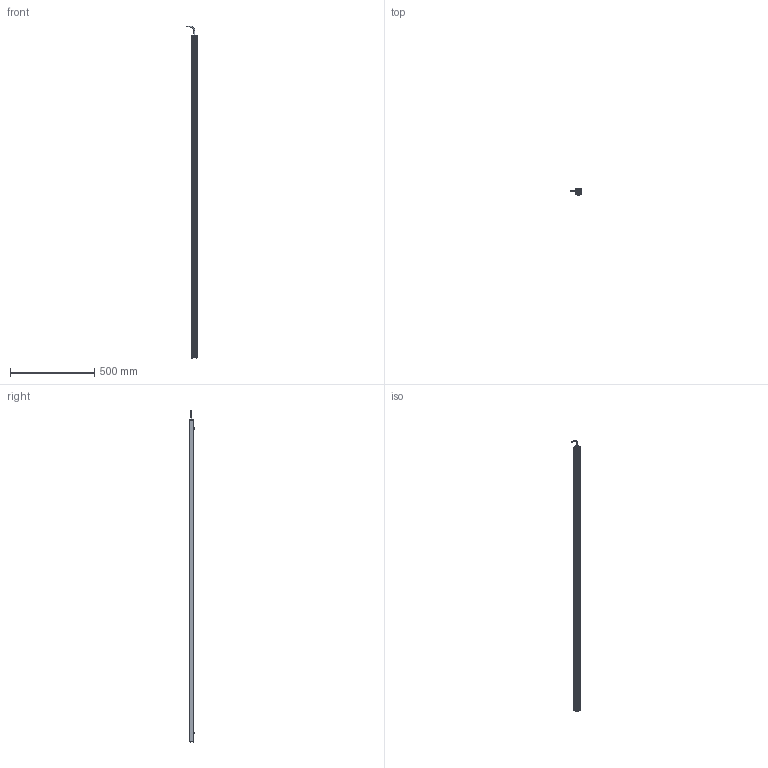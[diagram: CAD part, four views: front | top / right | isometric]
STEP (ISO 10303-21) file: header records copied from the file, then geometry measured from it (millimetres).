
FILE_DESCRIPTION (( 'STEP AP214' ), '1' );
FILE_NAME ('AL150XXXX_AL150438.stp', '2021-04-29T15:42:04', ( '' ), ( '' ), 'SwSTEP 2.0', 'SolidWorks 2018', '' );
FILE_SCHEMA (( 'AUTOMOTIVE_DESIGN' ));
Length unit declared in the file: inch
Products named in the file (12): Part2^AL150XXXX; 150-03-006-XXXX_150-03-006-438; HN-M6_90592A016; 1157 (no strap); CHM6x8_91460A312; 116-02-006; 150-01-005-XXX_150-01-005-438; 093145_93701A253; AL150XXXX_AL150438; 116-02-007; Part1^AL150XXXX; 092408_TRUNCATED
Assembly tree (18 placements, depth 2):
  Part2^AL150XXXX
  AL150XXXX_AL150438
    150-01-005-XXX_150-01-005-438
    116-02-006
    093145_93701A253  x8
    HN-M6_90592A016  x2
    CHM6x8_91460A312  x2
    150-03-006-XXXX_150-03-006-438
    116-02-007
    1157 (no strap)
    092408_TRUNCATED
  Part1^AL150XXXX
Bounding box: 60.68 x 33.84 x 1967.41 mm (x, y, z)
Volume: 591093.3 mm3; surface area: 623590.7 mm2
Topology: 26 solids, 26 shells, 1306 faces, 3436 edges, 2127 vertices
Faces by surface type: cylinder 805, cone 249, plane 153, torus 59, bspline 32, sphere 8
Entity records: 18285 total; most frequent: CARTESIAN_POINT 6069, ORIENTED_EDGE 2496, DIRECTION 2311, EDGE_CURVE 1248, AXIS2_PLACEMENT_3D 881, VERTEX_POINT 800, LINE 549, VECTOR 549
